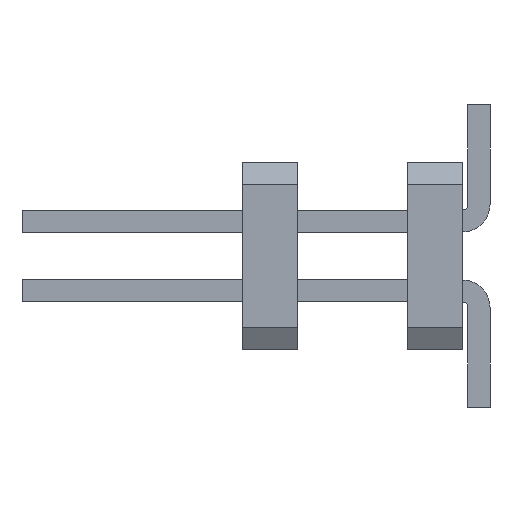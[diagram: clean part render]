
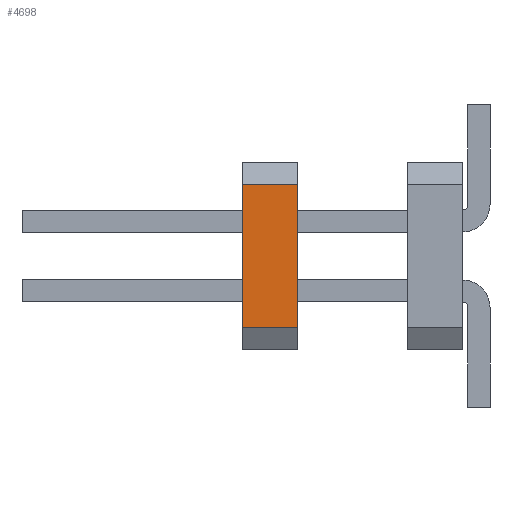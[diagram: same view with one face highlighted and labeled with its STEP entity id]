
A CAD part, left-side view. The second image highlights one B-rep face of the part: STEP entity #4698.
In plain terms, the highlighted planar face has unit normal (-1, 0, 0).
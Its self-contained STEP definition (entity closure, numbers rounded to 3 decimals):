
#3 = ORIENTED_EDGE ( 'NONE', *, *, #2353, .T. ) ;
#17 = LINE ( 'NONE', #4934, #3252 ) ;
#100 = ORIENTED_EDGE ( 'NONE', *, *, #5407, .F. ) ;
#678 = EDGE_LOOP ( 'NONE', ( #3, #2291, #100, #3240 ) ) ;
#788 = VERTEX_POINT ( 'NONE', #4240 ) ;
#1135 = DIRECTION ( 'NONE',  ( 0., 1., 0. ) ) ;
#1235 = CARTESIAN_POINT ( 'NONE',  ( -2.821, 2.698, -1.3 ) ) ;
#1271 = VECTOR ( 'NONE', #2136, 1000. ) ;
#1691 = CARTESIAN_POINT ( 'NONE',  ( -2.821, 3.698, 1.3 ) ) ;
#1822 = VERTEX_POINT ( 'NONE', #1235 ) ;
#2136 = DIRECTION ( 'NONE',  ( 0., 0., -1. ) ) ;
#2216 = CARTESIAN_POINT ( 'NONE',  ( -2.821, 3.698, 1.3 ) ) ;
#2261 = LINE ( 'NONE', #1691, #1271 ) ;
#2291 = ORIENTED_EDGE ( 'NONE', *, *, #2377, .F. ) ;
#2353 = EDGE_CURVE ( 'NONE', #4511, #2567, #2261, .T. ) ;
#2377 = EDGE_CURVE ( 'NONE', #1822, #2567, #4066, .T. ) ;
#2567 = VERTEX_POINT ( 'NONE', #2622 ) ;
#2622 = CARTESIAN_POINT ( 'NONE',  ( -2.821, 3.698, -1.3 ) ) ;
#2733 = DIRECTION ( 'NONE',  ( 0., 1., 0. ) ) ;
#2794 = DIRECTION ( 'NONE',  ( 1., 0., 0. ) ) ;
#3231 = DIRECTION ( 'NONE',  ( 0., 0., -1. ) ) ;
#3240 = ORIENTED_EDGE ( 'NONE', *, *, #3461, .T. ) ;
#3252 = VECTOR ( 'NONE', #3231, 1000. ) ;
#3357 = CARTESIAN_POINT ( 'NONE',  ( -2.821, 2.698, 1.3 ) ) ;
#3416 = LINE ( 'NONE', #3357, #5637 ) ;
#3461 = EDGE_CURVE ( 'NONE', #788, #4511, #3416, .T. ) ;
#3623 = CARTESIAN_POINT ( 'NONE',  ( -2.821, 2.698, -1.3 ) ) ;
#3911 = VECTOR ( 'NONE', #3942, 1000. ) ;
#3942 = DIRECTION ( 'NONE',  ( 0., 1., 0. ) ) ;
#4066 = LINE ( 'NONE', #3623, #3911 ) ;
#4070 = CARTESIAN_POINT ( 'NONE',  ( -2.821, 2.698, 1.3 ) ) ;
#4240 = CARTESIAN_POINT ( 'NONE',  ( -2.821, 2.698, 1.3 ) ) ;
#4511 = VERTEX_POINT ( 'NONE', #2216 ) ;
#4512 = FACE_OUTER_BOUND ( 'NONE', #678, .T. ) ;
#4698 = ADVANCED_FACE ( 'NONE', ( #4512 ), #5045, .F. ) ;
#4934 = CARTESIAN_POINT ( 'NONE',  ( -2.821, 2.698, 1.3 ) ) ;
#4989 = AXIS2_PLACEMENT_3D ( 'NONE', #4070, #2794, #2733 ) ;
#5045 = PLANE ( 'NONE',  #4989 ) ;
#5407 = EDGE_CURVE ( 'NONE', #788, #1822, #17, .T. ) ;
#5637 = VECTOR ( 'NONE', #1135, 1000. ) ;
